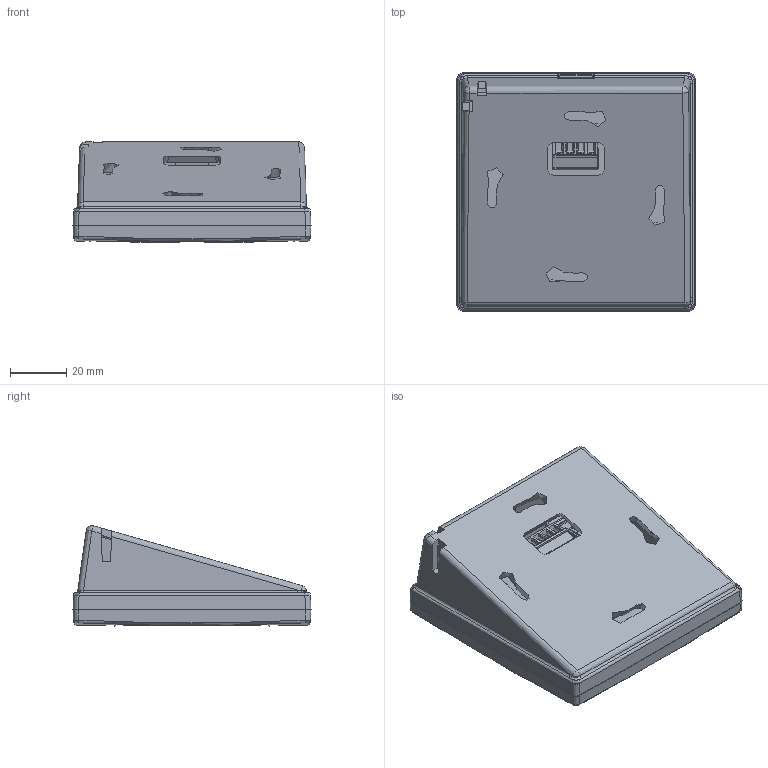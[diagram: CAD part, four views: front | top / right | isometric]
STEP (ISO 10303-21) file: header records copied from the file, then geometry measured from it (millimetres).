
FILE_DESCRIPTION(/* description */ (''),/* implementation_level */ '2;1');
FILE_NAME(/* name */ 'roomDisplay_b.step',/* time_stamp */ '2025-11-24T08:34:26+02:00',/* author */ (''),/* organization */ (''),/* preprocessor_version */ 'ST-DEVELOPER v20.1',/* originating_system */ 'Autodesk Translation Framework v14.21.0.0',/* authorisation */ '');
FILE_SCHEMA (('AUTOMOTIVE_DESIGN { 1 0 10303 214 3 1 1 }'));
Products named in the file (12): roomDisplay_assy; roomDISP_V152; roomDISP_V152_1; J2_s; J3_s; J4_s; J5_s; Board_outline; TFT_Display; Tape v1; fi000080_frontcover; fi000081_backcovertilte
Assembly tree (14 placements, depth 4):
  roomDisplay_assy
    roomDISP_V152
      roomDISP_V152_1
        J2_s
        J3_s
        J4_s
        J5_s
        Board_outline
    TFT_Display
      Tape v1  x4
    fi000080_frontcover
    fi000081_backcovertilte
Bounding box: 85 x 85 x 35.96 mm (x, y, z)
Volume: 44392.3 mm3; surface area: 66870 mm2
Topology: 86 solids, 359 shells, 5256 faces, 15577 edges, 10653 vertices
Faces by surface type: plane 4223, cylinder 737, bspline 159, sphere 61, cone 42, torus 34
Full cylindrical faces by diameter (mm): 0.3 x4, 0.457 x2, 0.75 x2, 0.8 x2, 1.1 x5, 1.2 x4, 1.3 x1, 1.4 x4, 1.6 x6, 2.8 x4, 2.9 x4
Entity records: 204083 total; most frequent: CARTESIAN_POINT 58314, ORIENTED_EDGE 29693, DIRECTION 27409, EDGE_CURVE 15533, LINE 13033, VECTOR 13033, VERTEX_POINT 10628, AXIS2_PLACEMENT_3D 7188
